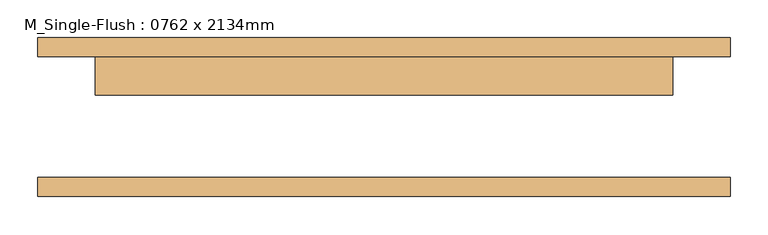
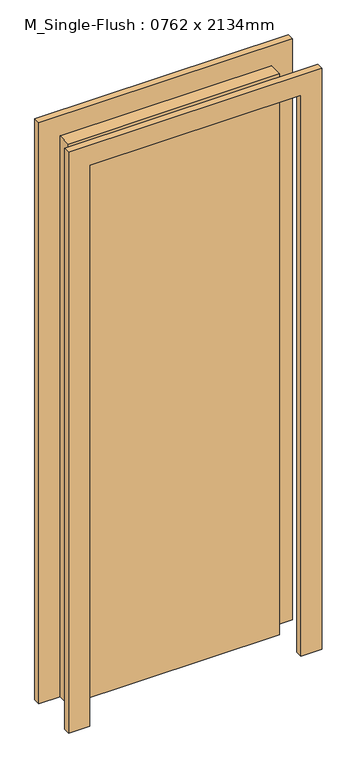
"""IFC4 building model written with IfcOpenShell, lengths in millimetres: door geometry, M_Single-Flush : 0762 x 2134mm."""

from ifc_helpers import new_model, si_unit, frame, origin, origin_with_axes, place, context, project, spatial, polyline, outline, extrude, source, transform, mapped, element, save


def m_single_flush_0762_x_2134mm_89ae47f1(model_context):
    return source(origin(), model_context, "Body", "SweptSolid", [
        extrude(outline(polyline([(2210.0, -457.0), (0.0, -457.0), (0.0, -381.0), (2134.0, -381.0), (2134.0, 381.0), (0.0, 381.0), (0.0, 457.0), (2210.0, 457.0), (2210.0, -457.0)])), frame((0.0, 80.0, 0.0), z_axis=(0.0, 1.0, 0.0), x_axis=(0.0, 0.0, 1.0)), (0.0, 0.0, 1.0), 25.0),
        extrude(outline(polyline([(2210.0, 457.0), (2210.0, -457.0), (0.0, -457.0), (0.0, -381.0), (2134.0, -381.0), (2134.0, 381.0), (0.0, 381.0), (0.0, 457.0), (2210.0, 457.0)])), frame((0.0, -105.0, 0.0), z_axis=(0.0, 1.0, 0.0), x_axis=(0.0, 0.0, 1.0)), (0.0, 0.0, 1.0), 25.0),
        extrude(outline(polyline([(381.0, 29.0), (-381.0, 29.0), (-381.0, 80.0), (381.0, 80.0), (381.0, 29.0)])), origin_with_axes(), (0.0, 0.0, 1.0), 2134.0),
    ])


if __name__ == "__main__":
    model = new_model("IFC4")
    model_context = context("Model", 3, world=origin())
    ifc_project = project(units=[si_unit("LENGTHUNIT", "METRE", prefix="MILLI")], contexts=[model_context])
    site = spatial("IfcSite", under=ifc_project)
    building = spatial("IfcBuilding", under=site)
    placement = place(None, origin())
    m_single_flush_0762_x_2134mm_shape = m_single_flush_0762_x_2134mm_89ae47f1(model_context)
    element("IfcDoor", 1, ObjectType="M_Single-Flush : 0762 x 2134mm", at=placement, inside=building, context=model_context, shape_type="MappedRepresentation", body=[
        mapped(m_single_flush_0762_x_2134mm_shape, transform((0.0, 0.0, 0.0), x_axis=(1.0, 0.0, 0.0), y_axis=(0.0, 1.0, 0.0), z_axis=(0.0, 0.0, 1.0))),
    ])
    save(model, "model.ifc")
